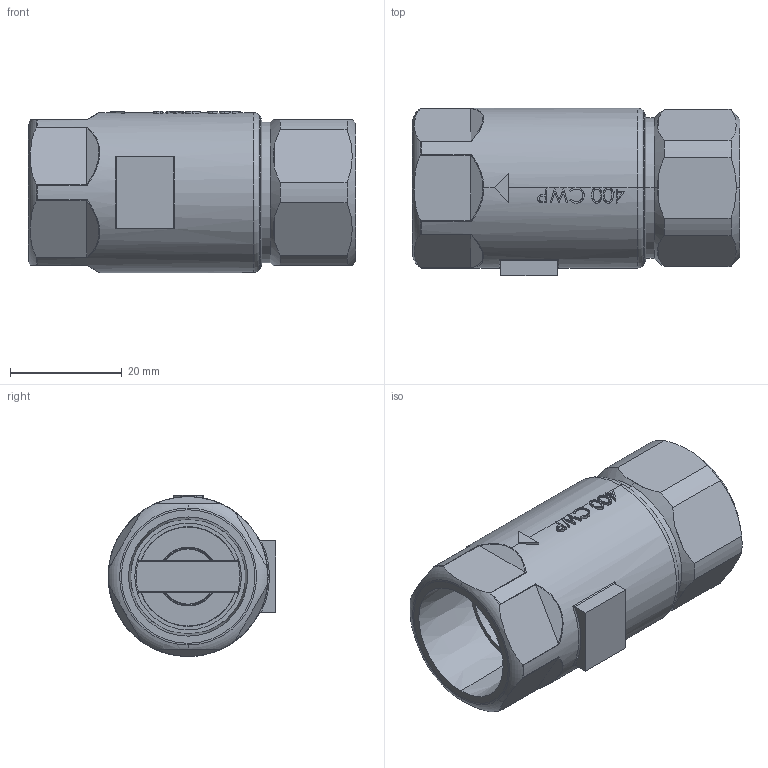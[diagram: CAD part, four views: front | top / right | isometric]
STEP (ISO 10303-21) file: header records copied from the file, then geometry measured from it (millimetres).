
FILE_DESCRIPTION (( 'STEP AP203' ), '1' );
FILE_NAME ('SC-4.STEP', '2022-09-19T21:04:28', ( '' ), ( '' ), 'SwSTEP 2.0', 'SolidWorks 2021', '' );
FILE_SCHEMA (( 'CONFIG_CONTROL_DESIGN' ));
Length unit declared in the file: inch
Products named in the file (1): SC-4
Bounding box: 58.42 x 29.97 x 28.77 mm (x, y, z)
Volume: 19644.1 mm3; surface area: 11367.9 mm2
Topology: 2 solids, 2 shells, 226 faces, 589 edges, 380 vertices
Faces by surface type: plane 91, cylinder 47, bspline 45, torus 29, cone 12, sphere 2
Entity records: 12094 total; most frequent: CARTESIAN_POINT 6917, ORIENTED_EDGE 1178, DIRECTION 895, EDGE_CURVE 589, VERTEX_POINT 380, AXIS2_PLACEMENT_3D 329, EDGE_LOOP 243, LINE 237
